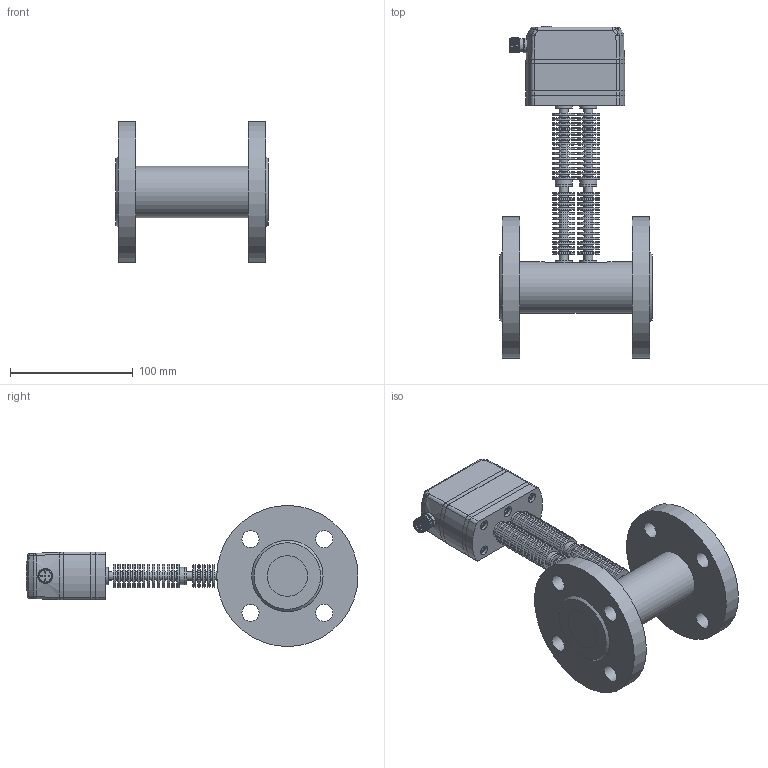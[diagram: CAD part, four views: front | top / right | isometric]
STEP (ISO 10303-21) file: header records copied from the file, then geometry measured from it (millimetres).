
FILE_DESCRIPTION( (''), '2;1');
FILE_NAME( 'QEKH_DN25_flange_cooling-fins_2.step', '2025-04-29T15:07:08+08:00', (''), (''), '', '', '');
FILE_SCHEMA (('AUTOMOTIVE_DESIGN { 1 0 10303 214 3 1 1 1 }'));
Length unit declared in the file: millimetre
Products named in the file (1): QEKH DN25_flange_cooling-fins_2
Bounding box: 124 x 270.4 x 115 mm (x, y, z)
Volume: 643723.8 mm3; surface area: 182047.4 mm2
Topology: 30 solids, 33 shells, 1888 faces, 4377 edges, 2782 vertices
Faces by surface type: plane 862, cylinder 414, cone 264, extrusion 239, torus 52, bspline 48, sphere 9
Full cylindrical faces by diameter (mm): 1 x10, 2.05 x4, 2.6 x4, 2.7 x5, 2.874 x4, 3 x8, 3.1 x1, 3.3 x8, 3.5 x7, 3.838 x6, 4.2 x2, 4.5 x12, 5 x2, 5.5 x10, 7 x62, 8 x4, 9 x2, 9.8 x2, 10.8 x1, 11 x8, 11.5 x2, 11.992 x2, 12 x8, 14 x18, 14.5 x2, 17 x2, 18 x26, 19 x28, 19.1 x6, 33 x4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
Entity records: 57824 total; most frequent: CARTESIAN_POINT 17371, DIRECTION 7725, ORIENTED_EDGE 7596, EDGE_CURVE 3798, AXIS2_PLACEMENT_3D 2825, VERTEX_POINT 2690, EDGE_LOOP 2668, VECTOR 2075
